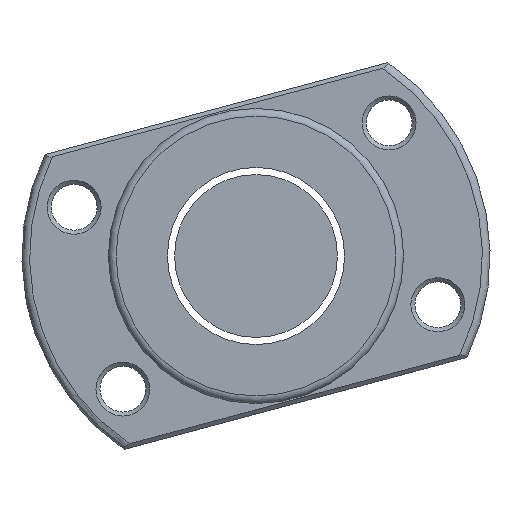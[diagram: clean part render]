
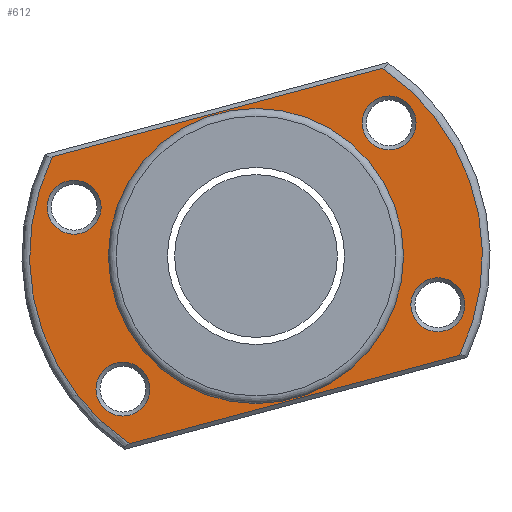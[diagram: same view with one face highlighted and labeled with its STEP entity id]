
A CAD part, left-side view. The second image highlights one B-rep face of the part: STEP entity #612.
In plain terms, the highlighted planar face has unit normal (-1, 0, 0).
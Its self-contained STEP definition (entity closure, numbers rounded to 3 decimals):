
#21 = VERTEX_POINT ( 'NONE', #2530 ) ;
#52 = AXIS2_PLACEMENT_3D ( 'NONE', #110, #586, #2644 ) ;
#53 = DIRECTION ( 'NONE',  ( 1., 0., 0. ) ) ;
#56 = EDGE_LOOP ( 'NONE', ( #2607, #213, #627, #1452 ) ) ;
#110 = CARTESIAN_POINT ( 'NONE',  ( -54., -26.163, 26.163 ) ) ;
#148 = CIRCLE ( 'NONE', #782, 29. ) ;
#170 = FACE_OUTER_BOUND ( 'NONE', #56, .T. ) ;
#186 = AXIS2_PLACEMENT_3D ( 'NONE', #2722, #620, #3013 ) ;
#200 = FACE_BOUND ( 'NONE', #290, .T. ) ;
#213 = ORIENTED_EDGE ( 'NONE', *, *, #1781, .T. ) ;
#277 = ORIENTED_EDGE ( 'NONE', *, *, #1001, .T. ) ;
#290 = EDGE_LOOP ( 'NONE', ( #277 ) ) ;
#336 = CIRCLE ( 'NONE', #2446, 5.3 ) ;
#340 = CARTESIAN_POINT ( 'NONE',  ( -54., -35.739, -4.276 ) ) ;
#373 = DIRECTION ( 'NONE',  ( 0., 0., 1. ) ) ;
#409 = EDGE_LOOP ( 'NONE', ( #1358 ) ) ;
#414 = CARTESIAN_POINT ( 'NONE',  ( -54., 0., -29. ) ) ;
#415 = FACE_BOUND ( 'NONE', #2730, .T. ) ;
#476 = CARTESIAN_POINT ( 'NONE',  ( -54., 24.878, -36.896 ) ) ;
#518 = EDGE_CURVE ( 'NONE', #1649, #899, #2098, .T. ) ;
#586 = DIRECTION ( 'NONE',  ( 1., 0., 0. ) ) ;
#596 = EDGE_CURVE ( 'NONE', #1250, #1250, #336, .T. ) ;
#612 = ADVANCED_FACE ( 'NONE', ( #200, #662, #1141, #415, #2491, #170 ), #2301, .T. ) ;
#620 = DIRECTION ( 'NONE',  ( -1., 0., 0. ) ) ;
#627 = ORIENTED_EDGE ( 'NONE', *, *, #1339, .T. ) ;
#636 = AXIS2_PLACEMENT_3D ( 'NONE', #921, #1857, #2800 ) ;
#652 = DIRECTION ( 'NONE',  ( 0., -0.966, 0.259 ) ) ;
#662 = FACE_BOUND ( 'NONE', #409, .T. ) ;
#739 = DIRECTION ( 'NONE',  ( 0., 0., -1. ) ) ;
#776 = DIRECTION ( 'NONE',  ( 1., 0., 0. ) ) ;
#777 = AXIS2_PLACEMENT_3D ( 'NONE', #2095, #1868, #2580 ) ;
#782 = AXIS2_PLACEMENT_3D ( 'NONE', #1644, #53, #739 ) ;
#882 = LINE ( 'NONE', #2076, #2797 ) ;
#886 = CIRCLE ( 'NONE', #52, 5.3 ) ;
#899 = VERTEX_POINT ( 'NONE', #476 ) ;
#921 = CARTESIAN_POINT ( 'NONE',  ( -54., 26.163, -26.163 ) ) ;
#985 = AXIS2_PLACEMENT_3D ( 'NONE', #1577, #776, #2513 ) ;
#1001 = EDGE_CURVE ( 'NONE', #2997, #2997, #2249, .T. ) ;
#1078 = AXIS2_PLACEMENT_3D ( 'NONE', #1995, #2161, #373 ) ;
#1079 = DIRECTION ( 'NONE',  ( 1., 0., 0. ) ) ;
#1141 = FACE_BOUND ( 'NONE', #2585, .T. ) ;
#1179 = VECTOR ( 'NONE', #2683, 1000. ) ;
#1250 = VERTEX_POINT ( 'NONE', #340 ) ;
#1316 = LINE ( 'NONE', #1742, #1179 ) ;
#1339 = EDGE_CURVE ( 'NONE', #2878, #1649, #1316, .T. ) ;
#1358 = ORIENTED_EDGE ( 'NONE', *, *, #596, .T. ) ;
#1367 = VERTEX_POINT ( 'NONE', #414 ) ;
#1380 = EDGE_CURVE ( 'NONE', #899, #21, #882, .T. ) ;
#1452 = ORIENTED_EDGE ( 'NONE', *, *, #518, .T. ) ;
#1474 = CIRCLE ( 'NONE', #1078, 44.5 ) ;
#1577 = CARTESIAN_POINT ( 'NONE',  ( -54., 35.739, 9.576 ) ) ;
#1644 = CARTESIAN_POINT ( 'NONE',  ( -54., 0., 0. ) ) ;
#1649 = VERTEX_POINT ( 'NONE', #1871 ) ;
#1742 = CARTESIAN_POINT ( 'NONE',  ( -54., 50.476, 16.705 ) ) ;
#1762 = VERTEX_POINT ( 'NONE', #2040 ) ;
#1781 = EDGE_CURVE ( 'NONE', #21, #2878, #1474, .T. ) ;
#1857 = DIRECTION ( 'NONE',  ( 1., 0., 0. ) ) ;
#1868 = DIRECTION ( 'NONE',  ( -1., 0., 0. ) ) ;
#1871 = CARTESIAN_POINT ( 'NONE',  ( -54., 39.993, 19.514 ) ) ;
#1932 = EDGE_CURVE ( 'NONE', #2508, #2508, #2298, .T. ) ;
#1965 = CARTESIAN_POINT ( 'NONE',  ( -54., -24.878, 36.896 ) ) ;
#1990 = CARTESIAN_POINT ( 'NONE',  ( -54., 26.163, -20.863 ) ) ;
#1995 = CARTESIAN_POINT ( 'NONE',  ( -54., 0., 0. ) ) ;
#2009 = CARTESIAN_POINT ( 'NONE',  ( -54., 35.739, 14.876 ) ) ;
#2040 = CARTESIAN_POINT ( 'NONE',  ( -54., -26.163, 31.463 ) ) ;
#2055 = DIRECTION ( 'NONE',  ( 0., 0., 1. ) ) ;
#2072 = CARTESIAN_POINT ( 'NONE',  ( -54., -35.739, -9.576 ) ) ;
#2076 = CARTESIAN_POINT ( 'NONE',  ( -54., 35.361, -39.705 ) ) ;
#2095 = CARTESIAN_POINT ( 'NONE',  ( -54., 0., 0. ) ) ;
#2098 = CIRCLE ( 'NONE', #777, 44.5 ) ;
#2133 = EDGE_LOOP ( 'NONE', ( #2633 ) ) ;
#2153 = ORIENTED_EDGE ( 'NONE', *, *, #1932, .T. ) ;
#2161 = DIRECTION ( 'NONE',  ( -1., 0., 0. ) ) ;
#2249 = CIRCLE ( 'NONE', #636, 5.3 ) ;
#2298 = CIRCLE ( 'NONE', #985, 5.3 ) ;
#2301 = PLANE ( 'NONE',  #186 ) ;
#2446 = AXIS2_PLACEMENT_3D ( 'NONE', #2072, #1079, #2055 ) ;
#2491 = FACE_BOUND ( 'NONE', #2133, .T. ) ;
#2508 = VERTEX_POINT ( 'NONE', #2009 ) ;
#2513 = DIRECTION ( 'NONE',  ( 0., 0., 1. ) ) ;
#2530 = CARTESIAN_POINT ( 'NONE',  ( -54., -39.993, -19.514 ) ) ;
#2554 = ORIENTED_EDGE ( 'NONE', *, *, #2883, .T. ) ;
#2567 = EDGE_CURVE ( 'NONE', #1367, #1367, #148, .T. ) ;
#2580 = DIRECTION ( 'NONE',  ( 0., 0., 1. ) ) ;
#2585 = EDGE_LOOP ( 'NONE', ( #2554 ) ) ;
#2607 = ORIENTED_EDGE ( 'NONE', *, *, #1380, .T. ) ;
#2633 = ORIENTED_EDGE ( 'NONE', *, *, #2567, .T. ) ;
#2644 = DIRECTION ( 'NONE',  ( 0., 0., 1. ) ) ;
#2683 = DIRECTION ( 'NONE',  ( 0., 0.966, -0.259 ) ) ;
#2722 = CARTESIAN_POINT ( 'NONE',  ( -54., 46., 0. ) ) ;
#2730 = EDGE_LOOP ( 'NONE', ( #2153 ) ) ;
#2797 = VECTOR ( 'NONE', #652, 1000. ) ;
#2800 = DIRECTION ( 'NONE',  ( 0., 0., 1. ) ) ;
#2878 = VERTEX_POINT ( 'NONE', #1965 ) ;
#2883 = EDGE_CURVE ( 'NONE', #1762, #1762, #886, .T. ) ;
#2997 = VERTEX_POINT ( 'NONE', #1990 ) ;
#3013 = DIRECTION ( 'NONE',  ( 0., 0., 1. ) ) ;
